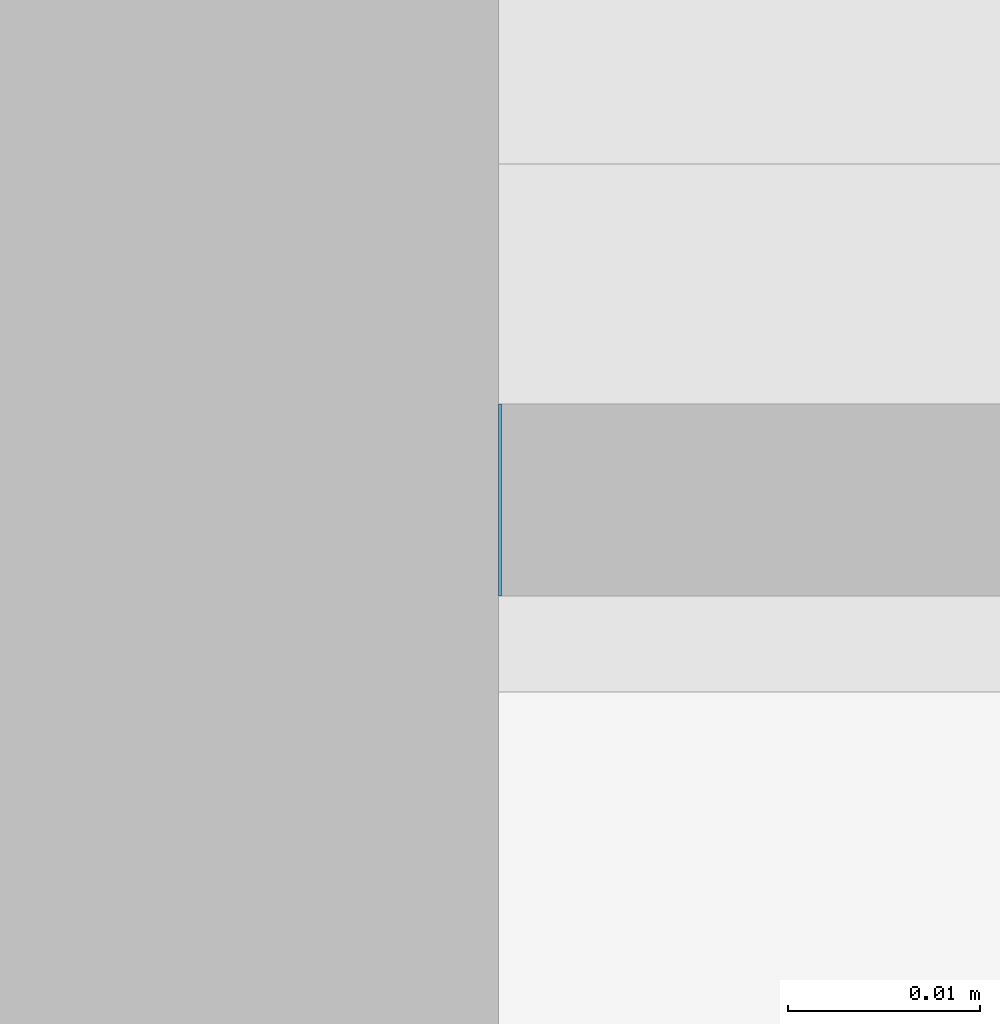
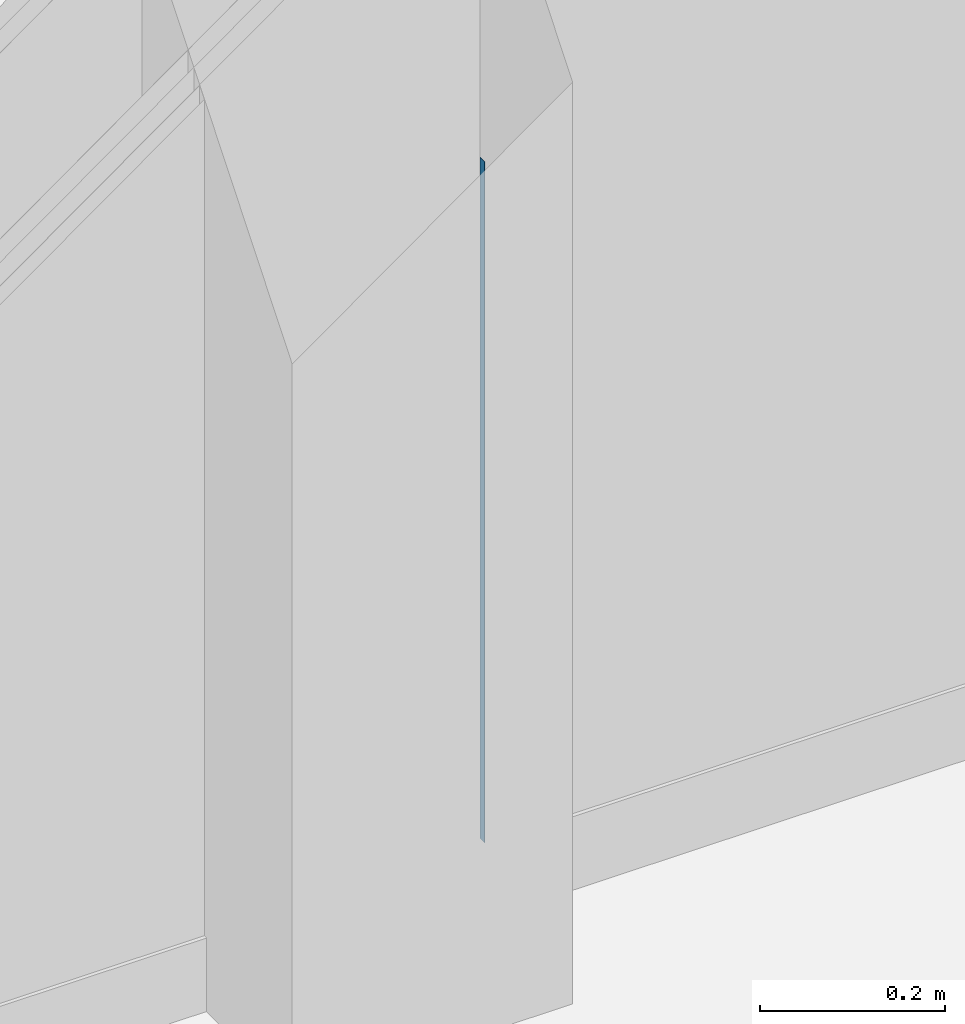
# One storey, part 32 of 94: 1 wall.
"""IFC2X3 building model written with IfcOpenShell, lengths in millimetres."""

from ifc_helpers import new_model, entity, si_unit, converted_unit, derived_unit, money_unit, direction, frame, origin_with_axes, place, context, subcontext, project, spatial, faceted_brep, material, type_object, element, save


model = new_model("IFC2X3")

# Units and contexts
model_context = context("Model", 3, precision=0.01, world=origin_with_axes(), true_north=direction((0.0, 1.0)))
body_context = subcontext(model_context, "Body", "Model", "MODEL_VIEW")
ifc_project = project(units=[si_unit("LENGTHUNIT", "METRE", prefix="MILLI"), si_unit("AREAUNIT", "SQUARE_METRE"), si_unit("VOLUMEUNIT", "CUBIC_METRE"), converted_unit("PLANEANGLEUNIT", "DEGREE", entity("IfcPlaneAngleMeasure", 0.0174532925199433), si_unit("PLANEANGLEUNIT", "RADIAN"), dimensions=[0, 0, 0, 0, 0, 0, 0]), money_unit("EUR"), converted_unit("TIMEUNIT", "Year", entity("IfcTimeMeasure", 31557600.0), si_unit("TIMEUNIT", "SECOND"), dimensions=[0, 0, 1, 0, 0, 0, 0]), si_unit("MASSUNIT", "GRAM", prefix="KILO"), si_unit("THERMODYNAMICTEMPERATUREUNIT", "DEGREE_CELSIUS"), si_unit("LUMINOUSINTENSITYUNIT", "LUMEN"), si_unit("ENERGYUNIT", "JOULE", prefix="MEGA"), derived_unit("THERMALCONDUCTANCEUNIT", [(si_unit("POWERUNIT", "WATT"), 1), (si_unit("LENGTHUNIT", "METRE"), -1), (si_unit("THERMODYNAMICTEMPERATUREUNIT", "KELVIN"), -1)]), derived_unit("SPECIFICHEATCAPACITYUNIT", [(si_unit("ENERGYUNIT", "JOULE"), 1), (si_unit("MASSUNIT", "GRAM", prefix="KILO"), -1), (si_unit("THERMODYNAMICTEMPERATUREUNIT", "KELVIN"), -1)]), derived_unit("MASSDENSITYUNIT", [(si_unit("MASSUNIT", "GRAM", prefix="KILO"), 1), (si_unit("VOLUMEUNIT", "CUBIC_METRE"), -1)])], contexts=[model_context])

# Site, building, storey
site_placement = place(None, origin_with_axes())
site = spatial("IfcSite", under=ifc_project, at=site_placement, Name="<site naam>", CompositionType="ELEMENT")
building_placement = place(site_placement, origin_with_axes())
building = spatial("IfcBuilding", under=site, at=building_placement, Name="<Naam gebouw>", CompositionType="ELEMENT")
storey_placement = place(building_placement, frame((0.0, 0.0, 4250.0), z_axis=(0.0, 0.0, 1.0), x_axis=(1.0, 0.0, 0.0)))
storey = spatial("IfcBuildingStorey", under=building, at=storey_placement, Name="01 1e verdieping", CompositionType="ELEMENT", Elevation=4250.0)

# Wall
ifc_material = material(Name="ALG - BUITENAFWERKING")
wall_type = type_object("IfcWallType", Name="ALG - BUITENAFWERKING 10", PredefinedType="NOTDEFINED")
wall_placement = place(storey_placement, frame((40175.00010281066, 11925.00000000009, 0.0), z_axis=(0.0, 0.0, 1.0), x_axis=(1.0, 0.0, 0.0)))
element("IfcWall", 1, at=wall_placement, inside=storey, type_object=wall_type, material=ifc_material, Name="42_Binnenwand_ALG", context=body_context, shape_type="Brep", body=[
    faceted_brep([(0.0, -9.999999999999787, 998.9999999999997), (0.1348848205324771, -9.999999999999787, 998.9999999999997), (0.1348848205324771, 0.0, 998.9999999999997), (0.0, 0.0, 998.9999999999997), (-0.000102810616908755, -9.999999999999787, 99.99999999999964), (0.1348848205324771, -9.999999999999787, 99.99999999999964), (0.1348848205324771, 0.0, 99.99999999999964), (-0.000102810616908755, 0.0, 99.99999999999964)], [[[0, 1, 2, 3]], [[4, 5, 1, 0]], [[5, 6, 2, 1]], [[3, 2, 6, 7]], [[3, 7, 4, 0]], [[7, 6, 5, 4]]]),
])

save(model, "model.ifc")
